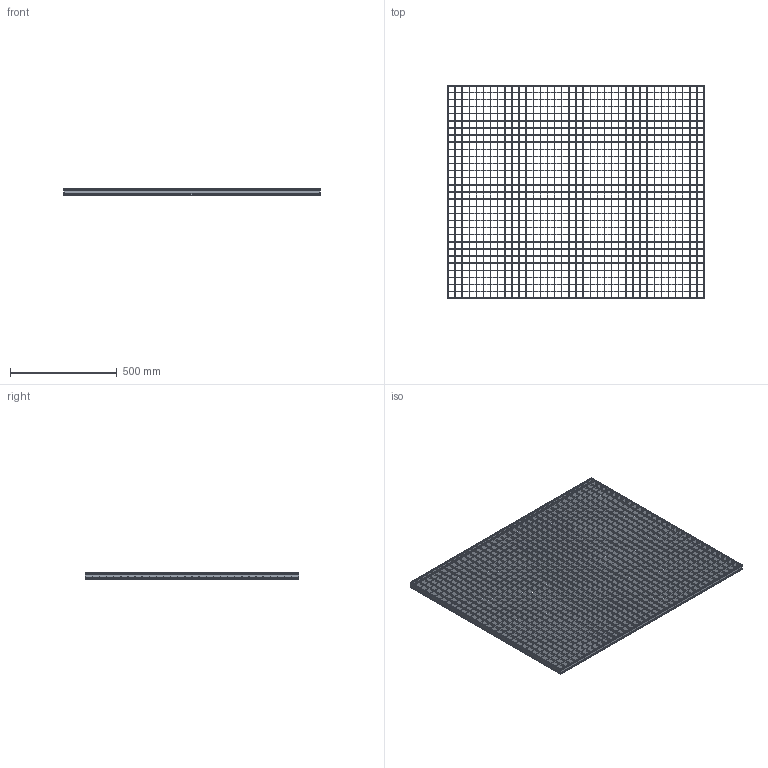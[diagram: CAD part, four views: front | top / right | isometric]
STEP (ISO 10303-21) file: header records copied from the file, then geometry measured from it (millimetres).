
FILE_DESCRIPTION(/* description */ ('STEP AP242','CAx-IF Rec.Pracs.---Representation and Presentation of Product Manufacturing Information (PMI)---4.0---2014-10-13','CAx-IF Rec.Pracs.---3D Tessellated Geometry---0.4---2014-09-14','2;1'),/* implementation_level */ '2;1');
FILE_NAME(/* name */ 'Lichtgitter_Pressure_locked_gratings P 230-33-2-1-1-1200-1000_(350_0)',/* time_stamp */ '2026-04-22T15:34:15+02:00',/* author */ ('License CC BY-ND 4.0'),/* organization */ ('CADENAS'),/* preprocessor_version */ 'ST-DEVELOPER v20',/* originating_system */ 'PARTsolutions',/* authorisation */ ' ');
FILE_SCHEMA (('TECHNICAL_DATA_PACKAGING','AP242_MANAGED_MODEL_BASED_3D_ENGINEERING_MIM_LF { 1 0 10303 442 1 1 4 }'));
Length unit declared in the file: millimetre
Products named in the file (5): Lichtgitter_Pressure_locked_gratings P 230-33-2-1-1-1200-1000_(350_0); Lichtgitter P 230-33-2_(Pressroste_350_1_1000_1200)_VERTICAL; Lichtgitter P 230-33-2_(Pressroste_350_1_1000_1200)_HORIZONTAL_C; Lichtgitter P 230-33-2_(Pressroste_350_1_1000_1200)_HORIZONTAL; Lichtgitter P 230-33-2_(Pressroste_350_1_1000_1200)_VERTICAL_C
Assembly tree (68 placements, depth 2):
  Lichtgitter_Pressure_locked_gratings P 230-33-2-1-1-1200-1000_(350_0)
    Lichtgitter P 230-33-2_(Pressroste_350_1_1000_1200)_VERTICAL  x2
    Lichtgitter P 230-33-2_(Pressroste_350_1_1000_1200)_HORIZONTAL_C  x29
    Lichtgitter P 230-33-2_(Pressroste_350_1_1000_1200)_HORIZONTAL  x2
    Lichtgitter P 230-33-2_(Pressroste_350_1_1000_1200)_VERTICAL_C  x35
Bounding box: 1200 x 1000 x 30 mm (x, y, z)
Volume: 3037061.6 mm3; surface area: 3364277.5 mm2
Topology: 68 solids, 68 shells, 4516 faces, 13140 edges, 8760 vertices
Faces by surface type: plane 4484, cylinder 32
Entity records: 6687 total; most frequent: CARTESIAN_POINT 1157, DIRECTION 1086, ORIENTED_EDGE 1080, EDGE_CURVE 540, LINE 508, VECTOR 508, VERTEX_POINT 360, AXIS2_PLACEMENT_3D 289
